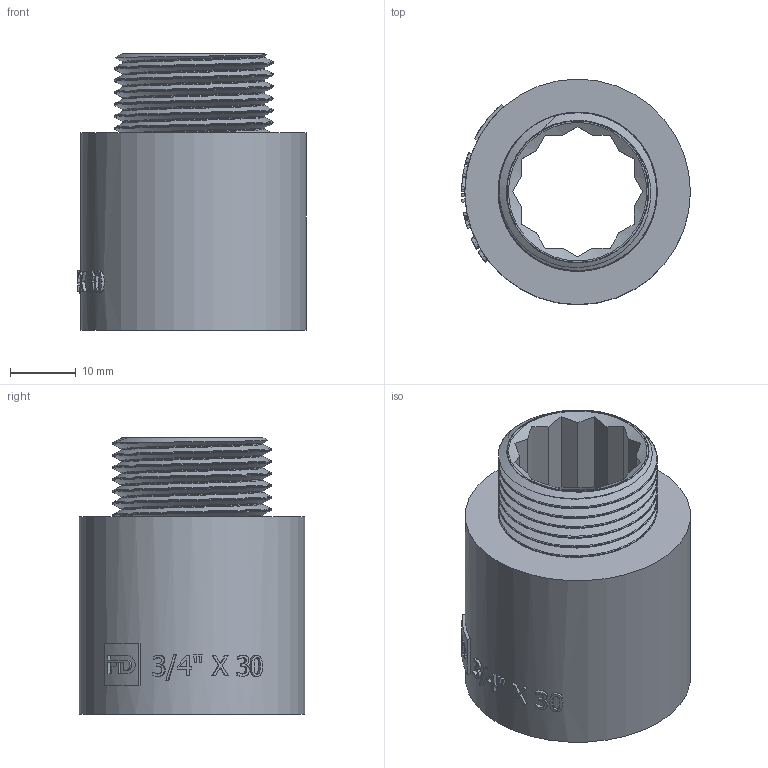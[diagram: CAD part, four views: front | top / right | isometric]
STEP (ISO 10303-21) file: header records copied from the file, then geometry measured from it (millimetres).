
FILE_DESCRIPTION(/* description */ (''),/* implementation_level */ '2;1');
FILE_NAME(/* name */ 'C:\Users\Doom\Desktop\Фадотех\Резьба\UN30 18.03.2020\UN30 18.03.2020.stp',/* time_stamp */ '2022-01-22T13:32:57+02:00',/* author */ ('Doom'),/* organization */ (''),/* preprocessor_version */ 'ST-DEVELOPER v18',/* originating_system */ 'Autodesk Inventor 2020',/* authorisation */ '');
FILE_SCHEMA (('AUTOMOTIVE_DESIGN { 1 0 10303 214 3 1 1 }'));
Length unit declared in the file: millimetre
Products named in the file (1): UD30 18.03.2020
Bounding box: 34.7 x 34.2 x 42 mm (x, y, z)
Volume: 15014.1 mm3; surface area: 15593.7 mm2
Topology: 3 solids, 3 shells, 212 faces, 587 edges, 394 vertices
Faces by surface type: plane 87, bspline 83, cylinder 38, cone 4
Full cylindrical faces by diameter (mm): 21.44 x2, 23.75 x10, 24.1 x1, 24.13 x5, 26.44 x2, 34.2 x1
Entity records: 17875 total; most frequent: CARTESIAN_POINT 13125, ORIENTED_EDGE 1166, DIRECTION 677, EDGE_CURVE 583, VERTEX_POINT 392, EDGE_LOOP 233, AXIS2_PLACEMENT_3D 230, B_SPLINE_CURVE_WITH_KNOTS 218
